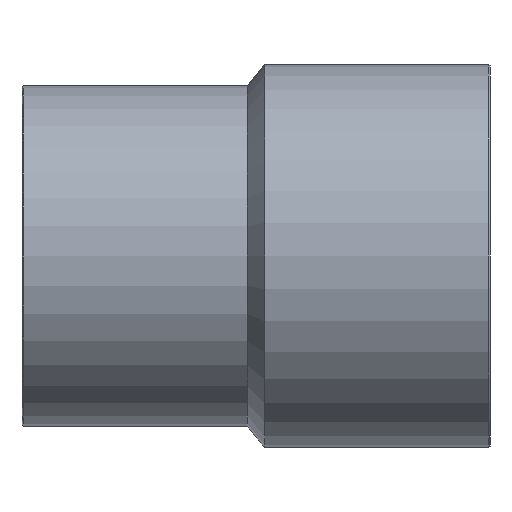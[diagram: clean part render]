
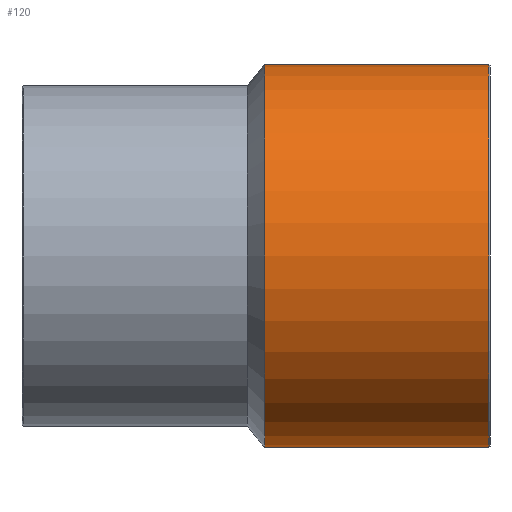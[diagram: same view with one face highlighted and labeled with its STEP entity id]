
A CAD part, front view. The second image highlights one B-rep face of the part: STEP entity #120.
In plain terms, the highlighted cylindrical face has radius 90 mm (diameter 180 mm), a full revolution.
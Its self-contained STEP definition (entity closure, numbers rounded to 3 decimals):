
#26=ORIENTED_EDGE('',*,*,#46,.T.);
#27=ORIENTED_EDGE('',*,*,#47,.F.);
#46=EDGE_CURVE('',#56,#56,#66,.T.);
#47=EDGE_CURVE('',#57,#57,#67,.T.);
#56=VERTEX_POINT('',#208);
#57=VERTEX_POINT('',#210);
#66=CIRCLE('',#144,90.);
#67=CIRCLE('',#145,90.);
#76=EDGE_LOOP('',(#26));
#77=EDGE_LOOP('',(#27));
#96=FACE_BOUND('',#76,.T.);
#97=FACE_BOUND('',#77,.T.);
#116=CYLINDRICAL_SURFACE('',#143,90.);
#120=ADVANCED_FACE('',(#96,#97),#116,.T.);
#143=AXIS2_PLACEMENT_3D('',#206,#165,#166);
#144=AXIS2_PLACEMENT_3D('',#207,#167,#168);
#145=AXIS2_PLACEMENT_3D('',#209,#169,#170);
#165=DIRECTION('',(-1.,0.,0.));
#166=DIRECTION('',(0.,0.,1.));
#167=DIRECTION('',(-1.,0.,0.));
#168=DIRECTION('',(0.,0.,1.));
#169=DIRECTION('',(-1.,0.,0.));
#170=DIRECTION('',(0.,0.,1.));
#206=CARTESIAN_POINT('',(-60.,0.,0.));
#207=CARTESIAN_POINT('',(109.5,0.,0.));
#208=CARTESIAN_POINT('',(109.5,0.,90.));
#209=CARTESIAN_POINT('',(4.,0.,0.));
#210=CARTESIAN_POINT('',(4.,0.,90.));
